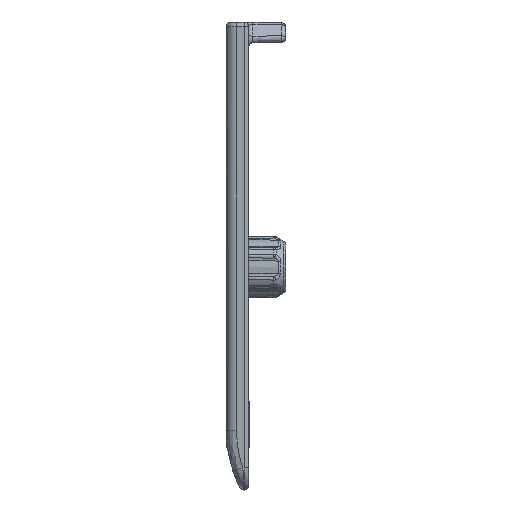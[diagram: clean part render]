
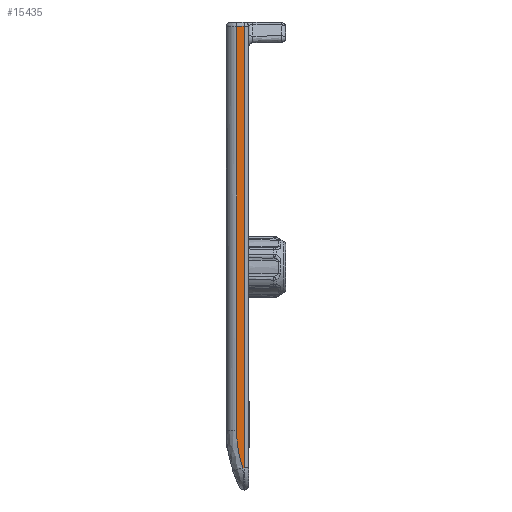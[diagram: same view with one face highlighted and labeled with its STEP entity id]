
A CAD part, left-side view. The second image highlights one B-rep face of the part: STEP entity #15435.
In plain terms, the highlighted planar face has unit normal (-1, 0.018, 0).
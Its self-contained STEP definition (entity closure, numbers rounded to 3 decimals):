
#4471=DIRECTION('',(0.,0.,1.));
#4472=VECTOR('',#4471,29.7);
#4473=CARTESIAN_POINT('',(-21.,0.295,
-31.5));
#4474=LINE('',#4473,#4472);
#4475=DIRECTION('',(-0.017,-1.,-0.017));
#4476=VECTOR('',#4475,0.106);
#4477=CARTESIAN_POINT('',(-20.998,0.4,
-31.498));
#4478=LINE('',#4477,#4476);
#4479=CARTESIAN_POINT('',(-20.991,0.812,-29.));
#4480=CARTESIAN_POINT('',(-20.991,0.812,
-29.286));
#4481=CARTESIAN_POINT('',(-20.992,0.78,
-29.852));
#4482=CARTESIAN_POINT('',(-20.994,0.648,
-30.663));
#4483=CARTESIAN_POINT('',(-20.997,0.495,
-31.22));
#4484=CARTESIAN_POINT('',(-20.998,0.4,
-31.498));
#4486=DIRECTION('',(0.,0.,-1.));
#4487=VECTOR('',#4486,27.191);
#4488=CARTESIAN_POINT('',(-20.991,0.812,
-1.809));
#4489=LINE('',#4488,#4487);
#4490=DIRECTION('',(-0.017,-1.,0.017));
#4491=VECTOR('',#4490,0.518);
#4492=CARTESIAN_POINT('',(-20.991,0.812,
-1.809));
#4493=LINE('',#4492,#4491);
#5365=CARTESIAN_POINT('',(-21.,0.295,
-31.5));
#5725=VERTEX_POINT('',#5365);
#5726=CARTESIAN_POINT('',(-21.,0.295,
-1.8));
#5727=VERTEX_POINT('',#5726);
#5992=VERTEX_POINT('',#4479);
#5993=VERTEX_POINT('',#4484);
#6006=CARTESIAN_POINT('',(-20.991,0.812,
-1.809));
#6007=VERTEX_POINT('',#6006);
#15419=CARTESIAN_POINT('',(-21.,0.3,-33.));
#15420=DIRECTION('',(-1.,0.017,0.));
#15421=DIRECTION('',(0.,0.,1.));
#15422=AXIS2_PLACEMENT_3D('',#15419,#15420,#15421);
#15423=PLANE('',#15422);
#15425=ORIENTED_EDGE('',*,*,#15424,.F.);
#15427=ORIENTED_EDGE('',*,*,#15426,.F.);
#15429=ORIENTED_EDGE('',*,*,#15428,.F.);
#15431=ORIENTED_EDGE('',*,*,#15430,.F.);
#15432=ORIENTED_EDGE('',*,*,#15411,.T.);
#15433=EDGE_LOOP('',(#15425,#15427,#15429,#15431,#15432));
#15434=FACE_OUTER_BOUND('',#15433,.F.);
#15435=ADVANCED_FACE('',(#15434),#15423,.T.);
#4485=B_SPLINE_CURVE_WITH_KNOTS('',3,(#4479,#4480,#4481,#4482,#4483,#4484),
.UNSPECIFIED.,.F.,.F.,(4,1,1,4),(0.,0.333,0.667,1.),
.UNSPECIFIED.);
#15411=EDGE_CURVE('',#6007,#5727,#4493,.T.);
#15424=EDGE_CURVE('',#5725,#5727,#4474,.T.);
#15426=EDGE_CURVE('',#5993,#5725,#4478,.T.);
#15428=EDGE_CURVE('',#5992,#5993,#4485,.T.);
#15430=EDGE_CURVE('',#6007,#5992,#4489,.T.);
